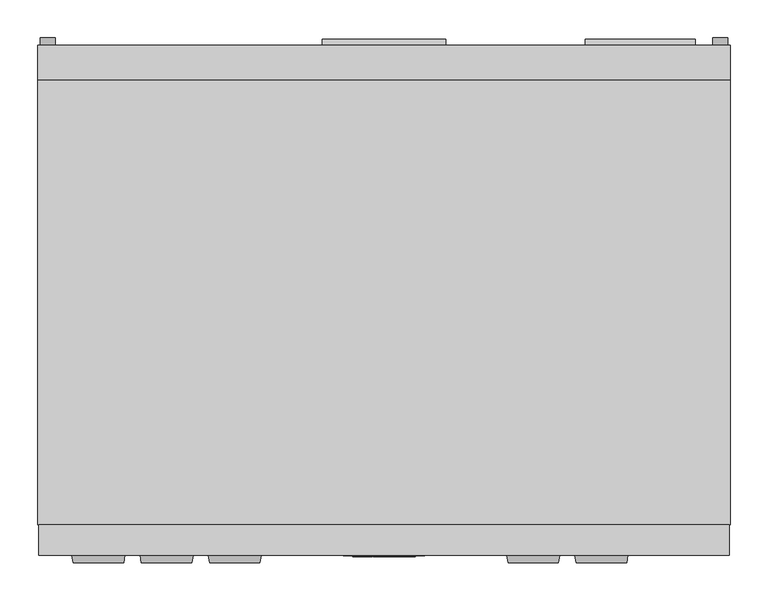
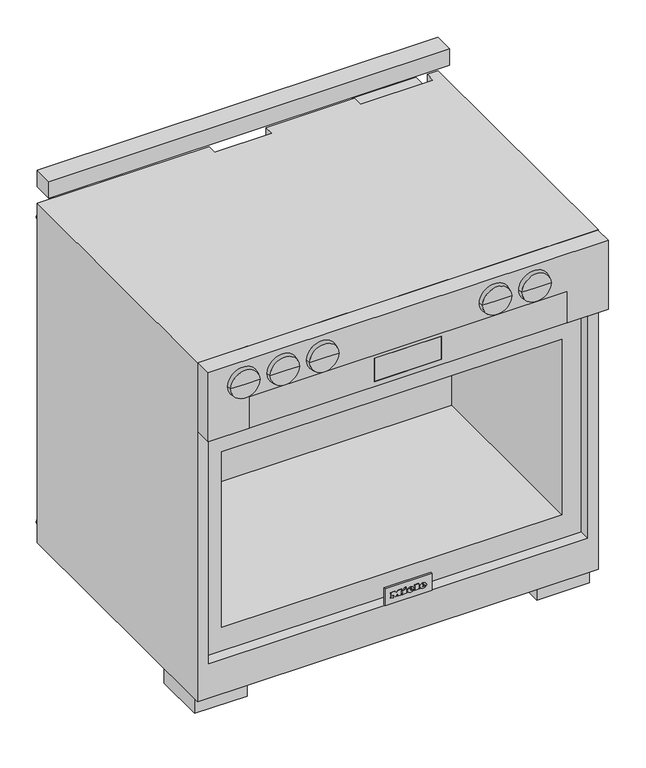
"""IFC4 building model written with IfcOpenShell, lengths in millimetres: proxy geometry, 11791570_USA_HR1934-3G_EDST-CLST : 25193481_USA_11791570_HR1934-3G_EDST-CLST."""

from ifc_helpers import new_model, si_unit, point, frame, frame_2d, origin, origin_with_axes, place, context, project, spatial, polyline, circle_curve, ellipse_curve, trimmed, segment, composite_curve, outline, extrude, faceted_brep, source, transform, mapped, element, save
from ifc_brep_helpers import plane_surface, cylinder_surface, revolved_surface, extruded_surface, advanced_brep


def specialty_equipment_81cbe028(model_context):
    return source(origin(), model_context, "Body", "SolidModel", [
        advanced_brep(
        [(253.7632698, -683.0, 813.0), (320.2367302, -683.0, 813.0), (287.0, -683.0, 813.0), (252.0, -673.0, 813.0), (322.0, -673.0, 813.0), (287.0, -673.0, 813.0)],
        [
            (0, 1, circle_curve(frame((287.0, -683.0, 813.0), z_axis=(0.0, -1.0, 0.0), x_axis=(1.0, 0.0, 0.0)), 33.2367302)),
            (1, 2),
            (2, 0),
            (1, 0, circle_curve(frame((287.0, -683.0, 813.0), z_axis=(0.0, -1.0, 0.0), x_axis=(1.0, 0.0, 0.0)), 33.2367302)),
            (3, 4, circle_curve(frame((287.0, -673.0, 813.0), z_axis=(0.0, -1.0, 0.0), x_axis=(1.0, 0.0, 0.0)), 35.0)),
            (4, 1),
            (0, 3),
            (4, 3, circle_curve(frame((287.0, -673.0, 813.0), z_axis=(0.0, -1.0, 0.0), x_axis=(1.0, 0.0, 0.0)), 35.0)),
            (5, 4),
            (3, 5),
        ],
        [
            plane_surface(frame((287.0, -683.0, 813.0), z_axis=(0.0, -1.0, 0.0), x_axis=(1.0, 0.0, 0.0))),
            revolved_surface(polyline([(320.2367302, -683.0, 813.0), (322.0, -673.0, 813.0)]), (287.0, 751.3738435, 813.0), (0.0, 1.0, 0.0)),
            plane_surface(frame((287.0, -673.0, 813.0), z_axis=(0.0, 1.0, 0.0), x_axis=(1.0, 0.0, 0.0))),
        ],
        [
            (0, [[1, 2, 3]]),
            (0, [[4, -3, -2]]),
            (1, [[5, 6, -1, 7]]),
            (1, [[8, -7, -4, -6]]),
            (2, [[9, -5, 10]]),
            (2, [[-10, -8, -9]]),
        ],
    ),
        advanced_brep(
        [(163.7632698, -683.0, 813.0), (230.2367302, -683.0, 813.0), (197.0, -683.0, 813.0), (162.0, -673.0, 813.0), (232.0, -673.0, 813.0), (197.0, -673.0, 813.0)],
        [
            (0, 1, circle_curve(frame((197.0, -683.0, 813.0), z_axis=(0.0, -1.0, 0.0), x_axis=(1.0, 0.0, 0.0)), 33.2367302)),
            (1, 2),
            (2, 0),
            (1, 0, circle_curve(frame((197.0, -683.0, 813.0), z_axis=(0.0, -1.0, 0.0), x_axis=(1.0, 0.0, 0.0)), 33.2367302)),
            (3, 4, circle_curve(frame((197.0, -673.0, 813.0), z_axis=(0.0, -1.0, 0.0), x_axis=(1.0, 0.0, 0.0)), 35.0)),
            (4, 1),
            (0, 3),
            (4, 3, circle_curve(frame((197.0, -673.0, 813.0), z_axis=(0.0, -1.0, 0.0), x_axis=(1.0, 0.0, 0.0)), 35.0)),
            (5, 4),
            (3, 5),
        ],
        [
            plane_surface(frame((197.0, -683.0, 813.0), z_axis=(0.0, -1.0, 0.0), x_axis=(1.0, 0.0, 0.0))),
            revolved_surface(polyline([(230.2367302, -683.0, 813.0), (232.0, -673.0, 813.0)]), (197.0, 751.3738435, 813.0), (0.0, 1.0, 0.0)),
            plane_surface(frame((197.0, -673.0, 813.0), z_axis=(0.0, 1.0, 0.0), x_axis=(1.0, 0.0, 0.0))),
        ],
        [
            (0, [[1, 2, 3]]),
            (0, [[4, -3, -2]]),
            (1, [[5, 6, -1, 7]]),
            (1, [[8, -7, -4, -6]]),
            (2, [[9, -5, 10]]),
            (2, [[-10, -8, -9]]),
        ],
    ),
        advanced_brep(
        [(-320.2367302, -683.0, 813.0), (-253.7632698, -683.0, 813.0), (-287.0, -683.0, 813.0), (-322.0, -673.0, 813.0), (-252.0, -673.0, 813.0), (-287.0, -673.0, 813.0)],
        [
            (0, 1, circle_curve(frame((-287.0, -683.0, 813.0), z_axis=(0.0, -1.0, 0.0), x_axis=(1.0, 0.0, 0.0)), 33.2367302)),
            (1, 2),
            (2, 0),
            (1, 0, circle_curve(frame((-287.0, -683.0, 813.0), z_axis=(0.0, -1.0, 0.0), x_axis=(1.0, 0.0, 0.0)), 33.2367302)),
            (3, 4, circle_curve(frame((-287.0, -673.0, 813.0), z_axis=(0.0, -1.0, 0.0), x_axis=(1.0, 0.0, 0.0)), 35.0)),
            (4, 1),
            (0, 3),
            (4, 3, circle_curve(frame((-287.0, -673.0, 813.0), z_axis=(0.0, -1.0, 0.0), x_axis=(1.0, 0.0, 0.0)), 35.0)),
            (5, 4),
            (3, 5),
        ],
        [
            plane_surface(frame((-287.0, -683.0, 813.0), z_axis=(0.0, -1.0, 0.0), x_axis=(1.0, 0.0, 0.0))),
            revolved_surface(polyline([(-253.7632698, -683.0, 813.0), (-252.0, -673.0, 813.0)]), (-287.0, 751.3738435, 813.0), (0.0, 1.0, 0.0)),
            plane_surface(frame((-287.0, -673.0, 813.0), z_axis=(0.0, 1.0, 0.0), x_axis=(1.0, 0.0, 0.0))),
        ],
        [
            (0, [[1, 2, 3]]),
            (0, [[4, -3, -2]]),
            (1, [[5, 6, -1, 7]]),
            (1, [[8, -7, -4, -6]]),
            (2, [[9, -5, 10]]),
            (2, [[-10, -8, -9]]),
        ],
    ),
        advanced_brep(
        [(-410.2367302, -683.0, 813.0), (-343.7632698, -683.0, 813.0), (-377.0, -683.0, 813.0), (-412.0, -673.0, 813.0), (-342.0, -673.0, 813.0), (-377.0, -673.0, 813.0)],
        [
            (0, 1, circle_curve(frame((-377.0, -683.0, 813.0), z_axis=(0.0, -1.0, 0.0), x_axis=(1.0, 0.0, 0.0)), 33.2367302)),
            (1, 2),
            (2, 0),
            (1, 0, circle_curve(frame((-377.0, -683.0, 813.0), z_axis=(0.0, -1.0, 0.0), x_axis=(1.0, 0.0, 0.0)), 33.2367302)),
            (3, 4, circle_curve(frame((-377.0, -673.0, 813.0), z_axis=(0.0, -1.0, 0.0), x_axis=(1.0, 0.0, 0.0)), 35.0)),
            (4, 1),
            (0, 3),
            (4, 3, circle_curve(frame((-377.0, -673.0, 813.0), z_axis=(0.0, -1.0, 0.0), x_axis=(1.0, 0.0, 0.0)), 35.0)),
            (5, 4),
            (3, 5),
        ],
        [
            plane_surface(frame((-377.0, -683.0, 813.0), z_axis=(0.0, -1.0, 0.0), x_axis=(1.0, 0.0, 0.0))),
            revolved_surface(polyline([(-343.7632698, -683.0, 813.0), (-342.0, -673.0, 813.0)]), (-377.0, 751.3738435, 813.0), (0.0, 1.0, 0.0)),
            plane_surface(frame((-377.0, -673.0, 813.0), z_axis=(0.0, 1.0, 0.0), x_axis=(1.0, 0.0, 0.0))),
        ],
        [
            (0, [[1, 2, 3]]),
            (0, [[4, -3, -2]]),
            (1, [[5, 6, -1, 7]]),
            (1, [[8, -7, -4, -6]]),
            (2, [[9, -5, 10]]),
            (2, [[-10, -8, -9]]),
        ],
    ),
        advanced_brep(
        [(-230.2367302, -683.0, 813.0), (-163.7632698, -683.0, 813.0), (-197.0, -683.0, 813.0), (-232.0, -673.0, 813.0), (-162.0, -673.0, 813.0), (-197.0, -673.0, 813.0)],
        [
            (0, 1, circle_curve(frame((-197.0, -683.0, 813.0), z_axis=(0.0, -1.0, 0.0), x_axis=(1.0, 0.0, 0.0)), 33.2367302)),
            (1, 2),
            (2, 0),
            (1, 0, circle_curve(frame((-197.0, -683.0, 813.0), z_axis=(0.0, -1.0, 0.0), x_axis=(1.0, 0.0, 0.0)), 33.2367302)),
            (3, 4, circle_curve(frame((-197.0, -673.0, 813.0), z_axis=(0.0, -1.0, 0.0), x_axis=(1.0, 0.0, 0.0)), 35.0)),
            (4, 1),
            (0, 3),
            (4, 3, circle_curve(frame((-197.0, -673.0, 813.0), z_axis=(0.0, -1.0, 0.0), x_axis=(1.0, 0.0, 0.0)), 35.0)),
            (5, 4),
            (3, 5),
        ],
        [
            plane_surface(frame((-197.0, -683.0, 813.0), z_axis=(0.0, -1.0, 0.0), x_axis=(1.0, 0.0, 0.0))),
            revolved_surface(polyline([(-163.7632698, -683.0, 813.0), (-162.0, -673.0, 813.0)]), (-197.0, 751.3738435, 813.0), (0.0, 1.0, 0.0)),
            plane_surface(frame((-197.0, -673.0, 813.0), z_axis=(0.0, 1.0, 0.0), x_axis=(1.0, 0.0, 0.0))),
        ],
        [
            (0, [[1, 2, 3]]),
            (0, [[4, -3, -2]]),
            (1, [[5, 6, -1, 7]]),
            (1, [[8, -7, -4, -6]]),
            (2, [[9, -5, 10]]),
            (2, [[-10, -8, -9]]),
        ],
    ),
        faceted_brep([(456.0, -673.0, 862.0), (-456.0, -673.0, 862.0), (-456.0, -673.0, 695.0), (-363.0, -673.0, 695.0), (-363.0, -673.0, 772.0), (363.0, -673.0, 772.0), (363.0, -673.0, 695.0), (456.0, -673.0, 695.0), (456.0, -633.0, 862.0), (456.0, -633.0, 695.0), (-456.0, -633.0, 695.0), (-456.0, -633.0, 862.0), (363.0, -666.7, 695.0), (-363.0, -666.7, 695.0), (363.0, -666.7, 772.0), (-363.0, -666.7, 772.0)], [[[0, 1, 2, 3, 4, 5, 6, 7]], [[8, 9, 10, 11]], [[0, 7, 9, 8]], [[10, 9, 7, 6, 12, 13, 3, 2]], [[2, 1, 11, 10]], [[1, 0, 8, 11]], [[14, 15, 13, 12]], [[14, 12, 6, 5]], [[13, 15, 4, 3]], [[15, 14, 5, 4]]]),
        extrude(outline(polyline([(772.0, 363.0), (772.0, -363.0), (695.0, -363.0), (695.0, 363.0), (772.0, 363.0)]), holes=[polyline([(763.0, 76.5), (707.0, 76.5), (707.0, -76.5), (763.0, -76.5), (763.0, 76.5)])]), frame((0.0, -671.7, 0.0), z_axis=(0.0, 1.0, 0.0), x_axis=(0.0, 0.0, 1.0)), (0.0, 0.0, 1.0), 5.0),
        extrude(outline(polyline([(76.5, -671.7), (-76.5, -671.7), (-76.5, -670.7), (76.5, -670.7), (76.5, -671.7)])), frame((0.0, 0.0, 707.0), z_axis=(0.0, 0.0, 1.0), x_axis=(1.0, 0.0, 0.0)), (0.0, 0.0, 1.0), 56.0),
        extrude(outline(polyline([(-330.0, -489.0), (-330.0, -609.0), (-450.0, -609.0), (-450.0, -489.0), (-330.0, -489.0)])), origin_with_axes(), (0.0, 0.0, 1.0), 45.0),
        extrude(outline(polyline([(450.0, -489.0), (450.0, -609.0), (330.0, -609.0), (330.0, -489.0), (450.0, -489.0)])), origin_with_axes(), (0.0, 0.0, 1.0), 45.0),
        extrude(outline(composite_curve([segment(trimmed(circle_curve(frame_2d((-152.0, 39.6862697)), 39.6862697), [point((-112.6710759, 45.0))], [point((-191.3289241, 45.0))], False, "CARTESIAN"), True, "CONTINUOUS"), segment(polyline([(-191.3289241, 45.0), (-112.6710759, 45.0)]), True, "CONTINUOUS")], self_intersect=False)), frame((-310.0, 0.0, 0.0), z_axis=(1.0, 0.0, 0.0), x_axis=(0.0, 1.0, 0.0)), (0.0, 0.0, 1.0), 28.0),
        faceted_brep([(-457.0, 0.0, 862.0), (-457.0, -633.0, 862.0), (457.0, -633.0, 862.0), (457.0, 0.0, 862.0), (432.0, 0.0, 862.0), (432.0, -23.0, 862.0), (266.0, -23.0, 862.0), (266.0, 0.0, 862.0), (65.0, 0.0, 862.0), (65.0, -23.0, 862.0), (-66.0, -23.0, 862.0), (-66.0, 0.0, 862.0), (457.0, 0.0, 45.0), (457.0, -633.0, 45.0), (-457.0, -633.0, 45.0), (-457.0, 0.0, 45.0), (-432.0, 0.0, 45.0), (-432.0, -75.0, 45.0), (432.0, -75.0, 45.0), (432.0, 0.0, 45.0), (266.0, 0.0, 132.0), (65.0, 0.0, 132.0), (-66.0, 0.0, 132.0), (-270.0, 0.0, 132.0), (-270.0, 0.0, 784.0), (-411.0, 0.0, 784.0), (-411.0, 0.0, 132.0), (-432.0, 0.0, 132.0), (432.0, -633.0, 695.0), (432.0, -633.0, 128.0), (-432.0, -633.0, 128.0), (-432.0, -633.0, 695.0), (432.0, -608.0, 695.0), (-432.0, -608.0, 695.0), (-432.0, -608.0, 128.0), (432.0, -608.0, 128.0), (388.0, -608.0, 608.0), (388.0, -608.0, 185.0), (-388.0, -608.0, 185.0), (-388.0, -608.0, 608.0), (388.0, -173.0, 608.0), (-388.0, -173.0, 608.0), (-388.0, -173.0, 185.0), (388.0, -173.0, 185.0), (432.0, -23.0, 132.0), (266.0, -23.0, 132.0), (65.0, -23.0, 132.0), (-66.0, -23.0, 132.0), (432.0, -75.0, 132.0), (-411.0, -69.0, 784.0), (-270.0, -69.0, 784.0), (-270.0, -69.0, 132.0), (-411.0, -69.0, 132.0), (-432.0, -75.0, 132.0)], [[[0, 1, 2, 3, 4, 5, 6, 7, 8, 9, 10, 11]], [[12, 13, 14, 15, 16, 17, 18, 19]], [[8, 7, 20, 21]], [[3, 12, 19, 4]], [[15, 0, 11, 22, 23, 24, 25, 26, 27, 16]], [[1, 0, 15, 14]], [[2, 1, 14, 13], [28, 29, 30, 31]], [[3, 2, 13, 12]], [[32, 33, 34, 35], [36, 37, 38, 39]], [[32, 35, 29, 28]], [[35, 34, 30, 29]], [[34, 33, 31, 30]], [[33, 32, 28, 31]], [[40, 41, 42, 43]], [[40, 43, 37, 36]], [[43, 42, 38, 37]], [[42, 41, 39, 38]], [[41, 40, 36, 39]], [[6, 5, 44, 45]], [[10, 9, 46, 47]], [[9, 8, 21, 46]], [[11, 10, 47, 22]], [[5, 4, 19, 18, 48, 44]], [[7, 6, 45, 20]], [[49, 50, 51, 52]], [[50, 49, 25, 24]], [[50, 24, 23, 51]], [[25, 49, 52, 26]], [[53, 48, 18, 17]], [[27, 53, 17, 16]], [[48, 53, 27, 26, 52, 51, 23, 22, 47, 46, 21, 20, 45, 44]]]),
        extrude(outline(composite_curve([segment(trimmed(circle_curve(frame_2d((748.0, -299.0)), 7.5), [point((748.0, -291.5))], [point((748.0, -306.5))], False, "CARTESIAN"), True, "CONTINUOUS"), segment(trimmed(circle_curve(frame_2d((748.0, -299.0)), 7.5), [point((748.0, -306.5))], [point((748.0, -291.5))], False, "CARTESIAN"), True, "CONTINUOUS")], self_intersect=False)), frame((0.0, -66.0, 0.0), z_axis=(0.0, 1.0, 0.0), x_axis=(0.0, 0.0, 1.0)), (0.0, 0.0, 1.0), 30.0),
        extrude(outline(polyline([(743.0, -288.4829639), (753.0509015, -288.4829639), (753.0509015, -289.7409127), (748.1386151, -289.7409127), (753.0475587, -294.8904554), (753.0475587, -296.6455728), (748.9164775, -292.3179994), (743.0, -296.8019347), (743.0, -295.2701694), (748.0664133, -291.4304743), (746.4465471, -289.7392234), (743.0, -289.7392234), (743.0, -288.4829639)])), frame((0.0, -36.0, 0.0), z_axis=(0.0, 1.0, 0.0), x_axis=(0.0, 0.0, 1.0)), (0.0, 0.0, 1.0), 1.0),
        extrude(outline(polyline([(742.9900117, -299.5376107), (753.0405487, -296.8032463), (753.0405487, -298.1010309), (744.3952189, -300.1941056), (753.0411296, -302.6946617), (753.0411296, -304.5615338), (744.4117226, -307.0845612), (753.0419182, -309.165026), (753.0419182, -310.4626989), (742.9984871, -307.7244126), (742.9984871, -306.3735976), (751.8308623, -303.6286268), (742.9900117, -301.0716905), (742.9900117, -299.5376107)])), frame((0.0, -36.0, 0.0), z_axis=(0.0, 1.0, 0.0), x_axis=(0.0, 0.0, 1.0)), (0.0, 0.0, 1.0), 1.0),
        extrude(outline(composite_curve([segment(trimmed(circle_curve(frame_2d((-362.0, -35.0)), 7.5), [point((-369.5, -35.0))], [point((-354.5, -35.0))], False, "CARTESIAN"), True, "CONTINUOUS"), segment(trimmed(circle_curve(frame_2d((-362.0, -35.0)), 7.5), [point((-354.5, -35.0))], [point((-369.5, -35.0))], False, "CARTESIAN"), True, "CONTINUOUS")], self_intersect=False)), frame((0.0, 0.0, 754.0), z_axis=(0.0, 0.0, 1.0), x_axis=(1.0, 0.0, 0.0)), (0.0, 0.0, 1.0), 30.0),
        extrude(outline(composite_curve([segment(trimmed(circle_curve(frame_2d((239.0, -44.0)), 7.5), [point((239.0, -51.5))], [point((239.0, -36.5))], False, "CARTESIAN"), True, "CONTINUOUS"), segment(trimmed(circle_curve(frame_2d((239.0, -44.0)), 7.5), [point((239.0, -36.5))], [point((239.0, -51.5))], False, "CARTESIAN"), True, "CONTINUOUS")], self_intersect=False)), frame((0.0, 0.0, 102.0), z_axis=(0.0, 0.0, 1.0), x_axis=(1.0, 0.0, 0.0)), (0.0, 0.0, 1.0), 30.0),
        extrude(outline(polyline([(246.4261097, -48.2846028), (239.1553153, -48.2846028), (239.1553153, -47.0259878), (245.1324687, -47.0259878), (245.1324687, -44.0398896), (239.4699511, -44.0398896), (239.4699511, -42.7868997), (245.1324687, -42.7868997), (245.1324687, -39.484481), (239.0234692, -39.484481), (239.0234692, -38.223126), (246.4261097, -38.223126), (246.4261097, -48.2846028)])), frame((0.0, 0.0, 101.0), z_axis=(0.0, 0.0, 1.0), x_axis=(1.0, 0.0, 0.0)), (0.0, 0.0, 1.0), 1.0),
        extrude(outline(polyline([(237.0939455, -48.2781045), (230.9083542, -48.2781045), (230.9083542, -47.0259878), (235.9083542, -47.0259878), (235.9083542, -38.223126), (237.0939455, -38.223126), (237.0939455, -48.2781045)])), frame((0.0, 0.0, 101.0), z_axis=(0.0, 0.0, 1.0), x_axis=(1.0, 0.0, 0.0)), (0.0, 0.0, 1.0), 1.0),
        extrude(outline(composite_curve([segment(polyline([(-359.0941465, -34.8216074), (-355.0193946, -34.8216074), (-355.0193946, -36.0727848), (-357.8300756, -36.0727848), (-357.8300756, -37.8953779), (-356.5547934, -38.5734575), (-354.8554891, -38.8730907)]), True, "CONTINUOUS"), segment(trimmed(circle_curve(frame_2d((-354.7763582, -35.1835188)), 3.6904203), [point((-354.8554891, -38.8730907))], [point((-351.0917956, -34.975672))], True, "CARTESIAN"), True, "CONTINUOUS"), segment(trimmed(circle_curve(frame_2d((-355.2742118, -35.2116028)), 4.1890654), [point((-351.0917956, -34.975672))], [point((-354.8924604, -31.0399683))], True, "CARTESIAN"), True, "CONTINUOUS"), segment(trimmed(circle_curve(frame_2d((-355.1434541, -33.7827322)), 2.7542243), [point((-354.8924604, -31.0399683))], [point((-357.2311401, -31.9862582))], True, "CARTESIAN"), True, "CONTINUOUS"), segment(polyline([(-357.2311401, -31.9862582), (-357.7913432, -33.1348449), (-358.9545959, -32.808521), (-358.2222817, -31.1459412)]), True, "CONTINUOUS"), segment(trimmed(circle_curve(frame_2d((-355.0056573, -34.3038983)), 4.5077007), [point((-358.2222817, -31.1459412))], [point((-354.8478593, -29.7989604))], False, "CARTESIAN"), True, "CONTINUOUS"), segment(trimmed(circle_curve(frame_2d((-355.0297107, -35.0029797)), 5.2071956), [point((-354.8478593, -29.7989604))], [point((-349.8225151, -35.0029797))], False, "CARTESIAN"), True, "CONTINUOUS"), segment(trimmed(circle_curve(frame_2d((-355.0187023, -34.9634409)), 5.1963376), [point((-349.8225151, -35.0029797))], [point((-355.0187023, -40.1597785))], False, "CARTESIAN"), True, "CONTINUOUS"), segment(polyline([(-355.0187023, -40.1597785), (-357.0821579, -39.7823822), (-359.0941465, -38.5734575), (-359.0941465, -34.8216074)]), True, "CONTINUOUS")], self_intersect=False)), frame((0.0, 0.0, 753.0), z_axis=(0.0, 0.0, 1.0), x_axis=(1.0, 0.0, 0.0)), (0.0, 0.0, 1.0), 1.0),
        extrude(outline(composite_curve([segment(polyline([(-369.4581842, -37.6489066), (-368.202206, -37.8031213), (-369.1593436, -39.5606642)]), True, "CONTINUOUS"), segment(trimmed(circle_curve(frame_2d((-371.3057471, -36.6354063)), 3.6282478), [point((-369.1593436, -39.5606642))], [point((-372.8962663, -39.8964538))], False, "CARTESIAN"), True, "CONTINUOUS"), segment(trimmed(circle_curve(frame_2d((-371.7731504, -37.593725)), 2.5620205), [point((-372.8962663, -39.8964538))], [point((-374.32893, -37.7724425))], False, "CARTESIAN"), True, "CONTINUOUS"), segment(trimmed(circle_curve(frame_2d((-372.617737, -37.6527843)), 1.7153715), [point((-374.32893, -37.7724425))], [point((-373.147816, -36.021369))], False, "CARTESIAN"), True, "CONTINUOUS"), segment(polyline([(-373.147816, -36.021369), (-371.3069947, -35.4232499), (-369.987673, -33.9770867)]), True, "CONTINUOUS"), segment(trimmed(circle_curve(frame_2d((-371.1408399, -36.351197)), 2.6393548), [point((-369.987673, -33.9770867))], [point((-372.2940069, -33.9770867))], True, "CARTESIAN"), True, "CONTINUOUS"), segment(polyline([(-372.2940069, -33.9770867), (-372.7553884, -34.6611129), (-374.0084996, -34.5072502), (-373.5756304, -33.3795875)]), True, "CONTINUOUS"), segment(trimmed(circle_curve(frame_2d((-370.9527143, -36.6576461)), 4.1982564), [point((-373.5756304, -33.3795875))], [point((-371.0505395, -32.4605295))], False, "CARTESIAN"), True, "CONTINUOUS"), segment(trimmed(circle_curve(frame_2d((-370.9805679, -35.4626064)), 3.0028922), [point((-371.0505395, -32.4605295))], [point((-368.5718203, -33.6694816))], False, "CARTESIAN"), True, "CONTINUOUS"), segment(trimmed(circle_curve(frame_2d((-370.4380028, -34.5301363)), 2.0550823), [point((-368.5718203, -33.6694816))], [point((-369.4341096, -36.323335))], False, "CARTESIAN"), True, "CONTINUOUS"), segment(polyline([(-369.4341096, -36.323335), (-371.3494535, -36.9828408), (-373.0597255, -37.9076387), (-372.6768706, -38.6156702)]), True, "CONTINUOUS"), segment(trimmed(circle_curve(frame_2d((-371.3695779, -35.6018954)), 3.2850956), [point((-372.6768706, -38.6156702))], [point((-370.0622852, -38.6156702))], True, "CARTESIAN"), True, "CONTINUOUS"), segment(polyline([(-370.0622852, -38.6156702), (-369.4581842, -37.6489066)]), True, "CONTINUOUS")], self_intersect=False)), frame((0.0, 0.0, 753.0), z_axis=(0.0, 0.0, 1.0), x_axis=(1.0, 0.0, 0.0)), (0.0, 0.0, 1.0), 1.0),
        extrude(outline(composite_curve([segment(polyline([(-366.0009008, -40.0), (-367.2635363, -40.0), (-367.0191787, -38.9415709), (-366.8778726, -34.1117735)]), True, "CONTINUOUS"), segment(trimmed(circle_curve(frame_2d((-365.387549, -34.1553762)), 1.4909613), [point((-366.8778726, -34.1117735))], [point((-365.6381402, -32.6856246))], False, "CARTESIAN"), True, "CONTINUOUS"), segment(trimmed(circle_curve(frame_2d((-364.1175682, -37.7832301)), 5.3195602), [point((-365.6381402, -32.6856246))], [point((-362.440667, -32.7348914))], False, "CARTESIAN"), True, "CONTINUOUS"), segment(polyline([(-362.440667, -32.7348914), (-361.3643767, -33.4338425), (-360.8177226, -34.6616478), (-362.0710839, -34.8155412), (-362.6628147, -33.9704619)]), True, "CONTINUOUS"), segment(trimmed(circle_curve(frame_2d((-363.889909, -36.6278559)), 2.9270297), [point((-362.6628147, -33.9704619))], [point((-365.335883, -34.0829271))], True, "CARTESIAN"), True, "CONTINUOUS"), segment(polyline([(-365.335883, -34.0829271), (-365.6819155, -35.289686), (-362.4250607, -35.9227545)]), True, "CONTINUOUS"), segment(trimmed(circle_curve(frame_2d((-362.8373847, -38.0439776)), 2.1609254), [point((-362.4250607, -35.9227545))], [point((-361.2872437, -39.5495212))], False, "CARTESIAN"), True, "CONTINUOUS"), segment(trimmed(circle_curve(frame_2d((-363.2230106, -36.6941434)), 3.4496922), [point((-361.2872437, -39.5495212))], [point((-364.4810512, -39.9062626))], False, "CARTESIAN"), True, "CONTINUOUS"), segment(polyline([(-364.4810512, -39.9062626), (-365.6943945, -39.0566705), (-366.0009008, -40.0)]), True, "CONTINUOUS")], self_intersect=False), holes=[composite_curve([segment(polyline([(-365.6808047, -36.7241112), (-365.4778117, -37.8753414), (-364.6808418, -38.5929363), (-363.3846505, -38.8921857)]), True, "CONTINUOUS"), segment(trimmed(circle_curve(frame_2d((-363.1641539, -37.9371101)), 0.980198), [point((-363.3846505, -38.8921857))], [point((-362.5826105, -37.148063))], True, "CARTESIAN"), True, "CONTINUOUS"), segment(polyline([(-362.5826105, -37.148063), (-363.683896, -36.9339948), (-365.6808047, -36.7241112)]), True, "CONTINUOUS")], self_intersect=False)]), frame((0.0, 0.0, 753.0), z_axis=(0.0, 0.0, 1.0), x_axis=(1.0, 0.0, 0.0)), (0.0, 0.0, 1.0), 1.0),
        extrude(outline(composite_curve([segment(trimmed(circle_curve(frame_2d((-152.0, 39.6862697)), 39.6862697), [point((-112.6710759, 45.0))], [point((-191.3289241, 45.0))], False, "CARTESIAN"), True, "CONTINUOUS"), segment(polyline([(-191.3289241, 45.0), (-112.6710759, 45.0)]), True, "CONTINUOUS")], self_intersect=False)), frame((282.0, 0.0, 0.0), z_axis=(1.0, 0.0, 0.0), x_axis=(0.0, 1.0, 0.0)), (0.0, 0.0, 1.0), 28.0),
        extrude(outline(polyline([(-81.5, 8.0), (81.5, 8.0), (81.5, 0.0), (-81.5, 0.0), (-81.5, 8.0)])), frame((0.0, 0.0, 559.0), z_axis=(0.0, 0.0, 1.0), x_axis=(1.0, 0.0, 0.0)), (0.0, 0.0, 1.0), 237.0),
        extrude(outline(polyline([(266.0, 8.0), (411.0, 8.0), (411.0, -23.0), (266.0, -23.0), (266.0, 8.0)])), frame((0.0, 0.0, 742.0), z_axis=(0.0, 0.0, 1.0), x_axis=(1.0, 0.0, 0.0)), (0.0, 0.0, 1.0), 115.0),
        extrude(outline(polyline([(284.0, -23.0), (405.0, -23.0), (405.0, -53.0), (284.0, -53.0), (284.0, -23.0)])), frame((0.0, 0.0, 117.0), z_axis=(0.0, 0.0, 1.0), x_axis=(1.0, 0.0, 0.0)), (0.0, 0.0, 1.0), 15.0),
        extrude(outline(polyline([(-258.0, 0.0), (170.0, 0.0), (170.0, -39.0), (-258.0, -39.0), (-258.0, 0.0)])), frame((0.0, 0.0, 117.0), z_axis=(0.0, 0.0, 1.0), x_axis=(1.0, 0.0, 0.0)), (0.0, 0.0, 1.0), 15.0),
        extrude(outline(composite_curve([segment(trimmed(circle_curve(frame_2d((822.0, 444.0)), 10.0), [point((822.0, 454.0))], [point((822.0, 434.0))], False, "CARTESIAN"), True, "CONTINUOUS"), segment(trimmed(circle_curve(frame_2d((822.0, 444.0)), 10.0), [point((822.0, 434.0))], [point((822.0, 454.0))], False, "CARTESIAN"), True, "CONTINUOUS")], self_intersect=False)), frame((0.0, 0.0, 0.0), z_axis=(0.0, 1.0, 0.0), x_axis=(0.0, 0.0, 1.0)), (0.0, 0.0, 1.0), 10.0),
        extrude(outline(composite_curve([segment(trimmed(circle_curve(frame_2d((87.0, 444.0)), 10.0), [point((87.0, 454.0))], [point((87.0, 434.0))], False, "CARTESIAN"), True, "CONTINUOUS"), segment(trimmed(circle_curve(frame_2d((87.0, 444.0)), 10.0), [point((87.0, 434.0))], [point((87.0, 454.0))], False, "CARTESIAN"), True, "CONTINUOUS")], self_intersect=False)), frame((0.0, 0.0, 0.0), z_axis=(0.0, 1.0, 0.0), x_axis=(0.0, 0.0, 1.0)), (0.0, 0.0, 1.0), 10.0),
        extrude(outline(composite_curve([segment(trimmed(circle_curve(frame_2d((822.0, -444.0)), 10.0), [point((822.0, -434.0))], [point((822.0, -454.0))], False, "CARTESIAN"), True, "CONTINUOUS"), segment(trimmed(circle_curve(frame_2d((822.0, -444.0)), 10.0), [point((822.0, -454.0))], [point((822.0, -434.0))], False, "CARTESIAN"), True, "CONTINUOUS")], self_intersect=False)), frame((0.0, 0.0, 0.0), z_axis=(0.0, 1.0, 0.0), x_axis=(0.0, 0.0, 1.0)), (0.0, 0.0, 1.0), 10.0),
        extrude(outline(composite_curve([segment(trimmed(circle_curve(frame_2d((87.0, -444.0)), 10.0), [point((87.0, -434.0))], [point((87.0, -454.0))], False, "CARTESIAN"), True, "CONTINUOUS"), segment(trimmed(circle_curve(frame_2d((87.0, -444.0)), 10.0), [point((87.0, -454.0))], [point((87.0, -434.0))], False, "CARTESIAN"), True, "CONTINUOUS")], self_intersect=False)), frame((0.0, 0.0, 0.0), z_axis=(0.0, 1.0, 0.0), x_axis=(0.0, 0.0, 1.0)), (0.0, 0.0, 1.0), 10.0),
        advanced_brep(
        [(32.17, -675.0, 177.1995), (32.17, -675.0, 178.563), (41.2015, -675.0, 178.563), (25.4875, -675.0, 178.563), (29.2, -675.0, 174.0), (40.972, -675.0, 177.1995), (36.895, -675.0, 177.1995), (33.682, -675.0, 175.6875), (32.17, -675.0, 180.291), (32.17, -675.0, 181.7625), (34.4785, -675.0, 181.7625), (34.4785, -675.0, 180.291), (32.17, -674.0, 177.1995), (33.682, -674.0, 175.6875), (36.895, -674.0, 177.1995), (40.972, -674.0, 177.1995), (29.2, -674.0, 174.0), (25.4875, -674.0, 178.563), (41.2015, -674.0, 178.563), (32.17, -674.0, 178.563), (32.17, -674.0, 180.291), (34.4785, -674.0, 180.291), (34.4785, -674.0, 181.7625), (32.17, -674.0, 181.7625)],
        [
            (0, 1),
            (1, 2),
            (2, 3, ellipse_curve(frame((33.3445, -675.0, 178.563), z_axis=(0.0, -1.0, 0.0), x_axis=(-1.0, 0.0, 0.0)), 7.857, 6.4935)),
            (3, 4, circle_curve(frame((30.7120736, -675.0, 179.022), z_axis=(0.0, -1.0, 0.0), x_axis=(0.0, 0.0, -1.0)), 5.2446974)),
            (4, 5, circle_curve(frame((33.1872142, -675.0, 182.586), z_axis=(0.0, -1.0, 0.0), x_axis=(0.0, 0.0, -1.0)), 9.46664)),
            (5, 6),
            (6, 7, circle_curve(frame((34.3419118, -675.0, 178.455), z_axis=(0.0, 1.0, 0.0), x_axis=(0.0, 0.0, -1.0)), 2.8450905)),
            (7, 0, circle_curve(frame((33.682, -675.0, 177.1995), z_axis=(0.0, 1.0, 0.0), x_axis=(0.0, 0.0, -1.0)), 1.512)),
            (8, 9),
            (9, 10, circle_curve(frame((33.32425, -675.0, 181.7625), z_axis=(0.0, 1.0, 0.0), x_axis=(0.0, 0.0, -1.0)), 1.15425)),
            (10, 11),
            (11, 8),
            (12, 13, circle_curve(frame((33.682, -674.0, 177.1995), z_axis=(0.0, -1.0, 0.0), x_axis=(0.0, 0.0, -1.0)), 1.512)),
            (13, 14, circle_curve(frame((34.3419118, -674.0, 178.455), z_axis=(0.0, -1.0, 0.0), x_axis=(0.0, 0.0, -1.0)), 2.8450905)),
            (14, 15),
            (15, 16, circle_curve(frame((33.1872142, -674.0, 182.586), z_axis=(0.0, 1.0, 0.0), x_axis=(0.0, 0.0, -1.0)), 9.46664)),
            (16, 17, circle_curve(frame((30.7120736, -674.0, 179.022), z_axis=(0.0, 1.0, 0.0), x_axis=(0.0, 0.0, -1.0)), 5.2446974)),
            (17, 18, ellipse_curve(frame((33.3445, -674.0, 178.563), z_axis=(0.0, 1.0, 0.0), x_axis=(-1.0, 0.0, 0.0)), 7.857, 6.4935)),
            (18, 19),
            (19, 12),
            (20, 21),
            (21, 22),
            (22, 23, circle_curve(frame((33.32425, -674.0, 181.7625), z_axis=(0.0, -1.0, 0.0), x_axis=(0.0, 0.0, -1.0)), 1.15425)),
            (23, 20),
            (0, 12),
            (19, 1),
            (18, 2),
            (5, 15),
            (14, 6),
            (17, 3),
            (13, 7),
            (16, 4),
            (8, 20),
            (23, 9),
            (22, 10),
            (21, 11),
        ],
        [
            plane_surface(frame((32.17, -675.0, 178.563), z_axis=(0.0, -1.0, 0.0), x_axis=(0.0, 0.0, 1.0))),
            plane_surface(frame((32.17, -674.0, 178.563), z_axis=(0.0, 1.0, 0.0), x_axis=(0.0, 0.0, -1.0))),
            plane_surface(frame((32.17, -675.0, 177.1995), z_axis=(1.0, 0.0, 0.0), x_axis=(0.0, 1.0, 0.0))),
            plane_surface(frame((32.17, -675.0, 178.563), z_axis=(0.0, 0.0, -1.0), x_axis=(0.0, 1.0, 0.0))),
            plane_surface(frame((40.972, -675.0, 177.1995), z_axis=(0.0, 0.0, 1.0), x_axis=(0.0, 1.0, 0.0))),
            extruded_surface(trimmed(ellipse_curve(frame((33.3445, -673.0, 178.563), z_axis=(0.0, -1.0, 0.0), x_axis=(-1.0, 0.0, 0.0)), 7.857, 6.4935), [point((41.2015, -673.0, 178.563))], [point((25.4875, -673.0, 178.563))], True, "CARTESIAN"), (0.0, -1.0, 0.0), 1.0),
            revolved_surface(polyline([(34.3419118, -674.0, 175.60990950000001), (34.3419118, -675.0, 175.60990950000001)]), (34.3419118, -674.0, 178.455), (0.0, 1.0, 0.0)),
            revolved_surface(polyline([(33.682, -674.0, 175.6875), (33.682, -675.0, 175.6875)]), (33.682, -674.0, 177.1995), (0.0, 1.0, 0.0)),
            cylinder_surface(frame((30.7120736, -674.0, 179.022), z_axis=(0.0, -1.0, 0.0), x_axis=(0.0, 0.0, -1.0)), 5.2446974),
            cylinder_surface(frame((33.1872142, -674.0, 182.586), z_axis=(0.0, -1.0, 0.0), x_axis=(0.0, 0.0, -1.0)), 9.46664),
            plane_surface(frame((32.17, -675.0, 180.291), z_axis=(1.0, 0.0, 0.0), x_axis=(0.0, 1.0, 0.0))),
            revolved_surface(polyline([(33.32425, -674.0, 180.60825), (33.32425, -675.0, 180.60825)]), (33.32425, -674.0, 181.7625), (0.0, 1.0, 0.0)),
            plane_surface(frame((34.4785, -675.0, 181.7625), z_axis=(-1.0, 0.0, 0.0), x_axis=(0.0, 1.0, 0.0))),
            plane_surface(frame((34.4785, -675.0, 180.291), z_axis=(0.0, 0.0, 1.0), x_axis=(0.0, 1.0, 0.0))),
        ],
        [
            (0, [[1, 2, 3, 4, 5, 6, 7, 8], [9, 10, 11, 12]]),
            (1, [[13, 14, 15, 16, 17, 18, 19, 20], [21, 22, 23, 24]]),
            (2, [[-1, 25, -20, 26]]),
            (3, [[-2, -26, -19, 27]]),
            (4, [[-6, 28, -15, 29]]),
            (5, [[-3, -27, -18, 30]]),
            (6, [[-7, -29, -14, 31]]),
            (7, [[-8, -31, -13, -25]]),
            (8, [[-4, -30, -17, 32]]),
            (9, [[-5, -32, -16, -28]]),
            (10, [[-9, 33, -24, 34]]),
            (11, [[-10, -34, -23, 35]]),
            (12, [[-11, -35, -22, 36]]),
            (13, [[-12, -36, -21, -33]]),
        ],
    ),
        advanced_brep(
        [(3.9955, -675.0, 177.1995), (3.9955, -675.0, 178.563), (13.027, -675.0, 178.563), (-2.687, -675.0, 178.563), (1.0255, -675.0, 174.0), (12.7975, -675.0, 177.1995), (8.7205, -675.0, 177.1995), (5.5075, -675.0, 175.6875), (3.9955, -675.0, 180.291), (3.9955, -675.0, 181.7625), (6.304, -675.0, 181.7625), (6.304, -675.0, 180.291), (3.9955, -674.0, 177.1995), (5.5075, -674.0, 175.6875), (8.7205, -674.0, 177.1995), (12.7975, -674.0, 177.1995), (1.0255, -674.0, 174.0), (-2.687, -674.0, 178.563), (13.027, -674.0, 178.563), (3.9955, -674.0, 178.563), (3.9955, -674.0, 180.291), (6.304, -674.0, 180.291), (6.304, -674.0, 181.7625), (3.9955, -674.0, 181.7625)],
        [
            (0, 1),
            (1, 2),
            (2, 3, ellipse_curve(frame((5.17, -675.0, 178.563), z_axis=(0.0, -1.0, 0.0), x_axis=(-1.0, 0.0, 0.0)), 7.857, 6.4935)),
            (3, 4, circle_curve(frame((2.5375736, -675.0, 179.022), z_axis=(0.0, -1.0, 0.0), x_axis=(0.0, 0.0, -1.0)), 5.2446974)),
            (4, 5, circle_curve(frame((5.0127142, -675.0, 182.586), z_axis=(0.0, -1.0, 0.0), x_axis=(0.0, 0.0, -1.0)), 9.46664)),
            (5, 6),
            (6, 7, circle_curve(frame((6.1674118, -675.0, 178.455), z_axis=(0.0, 1.0, 0.0), x_axis=(0.0, 0.0, -1.0)), 2.8450905)),
            (7, 0, circle_curve(frame((5.5075, -675.0, 177.1995), z_axis=(0.0, 1.0, 0.0), x_axis=(0.0, 0.0, -1.0)), 1.512)),
            (8, 9),
            (9, 10, circle_curve(frame((5.14975, -675.0, 181.7625), z_axis=(0.0, 1.0, 0.0), x_axis=(0.0, 0.0, -1.0)), 1.15425)),
            (10, 11),
            (11, 8),
            (12, 13, circle_curve(frame((5.5075, -674.0, 177.1995), z_axis=(0.0, -1.0, 0.0), x_axis=(0.0, 0.0, -1.0)), 1.512)),
            (13, 14, circle_curve(frame((6.1674118, -674.0, 178.455), z_axis=(0.0, -1.0, 0.0), x_axis=(0.0, 0.0, -1.0)), 2.8450905)),
            (14, 15),
            (15, 16, circle_curve(frame((5.0127142, -674.0, 182.586), z_axis=(0.0, 1.0, 0.0), x_axis=(0.0, 0.0, -1.0)), 9.46664)),
            (16, 17, circle_curve(frame((2.5375736, -674.0, 179.022), z_axis=(0.0, 1.0, 0.0), x_axis=(0.0, 0.0, -1.0)), 5.2446974)),
            (17, 18, ellipse_curve(frame((5.17, -674.0, 178.563), z_axis=(0.0, 1.0, 0.0), x_axis=(-1.0, 0.0, 0.0)), 7.857, 6.4935)),
            (18, 19),
            (19, 12),
            (20, 21),
            (21, 22),
            (22, 23, circle_curve(frame((5.14975, -674.0, 181.7625), z_axis=(0.0, -1.0, 0.0), x_axis=(0.0, 0.0, -1.0)), 1.15425)),
            (23, 20),
            (0, 12),
            (19, 1),
            (18, 2),
            (5, 15),
            (14, 6),
            (17, 3),
            (13, 7),
            (16, 4),
            (8, 20),
            (23, 9),
            (22, 10),
            (21, 11),
        ],
        [
            plane_surface(frame((3.9955, -675.0, 178.563), z_axis=(0.0, -1.0, 0.0), x_axis=(0.0, 0.0, 1.0))),
            plane_surface(frame((3.9955, -674.0, 178.563), z_axis=(0.0, 1.0, 0.0), x_axis=(0.0, 0.0, -1.0))),
            plane_surface(frame((3.9955, -675.0, 177.1995), z_axis=(1.0, 0.0, 0.0), x_axis=(0.0, 1.0, 0.0))),
            plane_surface(frame((3.9955, -675.0, 178.563), z_axis=(0.0, 0.0, -1.0), x_axis=(0.0, 1.0, 0.0))),
            plane_surface(frame((12.7975, -675.0, 177.1995), z_axis=(0.0, 0.0, 1.0), x_axis=(0.0, 1.0, 0.0))),
            extruded_surface(trimmed(ellipse_curve(frame((5.17, -673.0, 178.563), z_axis=(0.0, -1.0, 0.0), x_axis=(-1.0, 0.0, 0.0)), 7.857, 6.4935), [point((13.027, -673.0, 178.563))], [point((-2.687, -673.0, 178.563))], True, "CARTESIAN"), (0.0, -1.0, 0.0), 1.0),
            revolved_surface(polyline([(6.1674118, -674.0, 175.60990950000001), (6.1674118, -675.0, 175.60990950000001)]), (6.1674118, -674.0, 178.455), (0.0, 1.0, 0.0)),
            revolved_surface(polyline([(5.5075, -674.0, 175.6875), (5.5075, -675.0, 175.6875)]), (5.5075, -674.0, 177.1995), (0.0, 1.0, 0.0)),
            cylinder_surface(frame((2.5375736, -674.0, 179.022), z_axis=(0.0, -1.0, 0.0), x_axis=(0.0, 0.0, -1.0)), 5.2446974),
            cylinder_surface(frame((5.0127142, -674.0, 182.586), z_axis=(0.0, -1.0, 0.0), x_axis=(0.0, 0.0, -1.0)), 9.46664),
            plane_surface(frame((3.9955, -675.0, 180.291), z_axis=(1.0, 0.0, 0.0), x_axis=(0.0, 1.0, 0.0))),
            revolved_surface(polyline([(5.14975, -674.0, 180.60825), (5.14975, -675.0, 180.60825)]), (5.14975, -674.0, 181.7625), (0.0, 1.0, 0.0)),
            plane_surface(frame((6.304, -675.0, 181.7625), z_axis=(-1.0, 0.0, 0.0), x_axis=(0.0, 1.0, 0.0))),
            plane_surface(frame((6.304, -675.0, 180.291), z_axis=(0.0, 0.0, 1.0), x_axis=(0.0, 1.0, 0.0))),
        ],
        [
            (0, [[1, 2, 3, 4, 5, 6, 7, 8], [9, 10, 11, 12]]),
            (1, [[13, 14, 15, 16, 17, 18, 19, 20], [21, 22, 23, 24]]),
            (2, [[-1, 25, -20, 26]]),
            (3, [[-2, -26, -19, 27]]),
            (4, [[-6, 28, -15, 29]]),
            (5, [[-3, -27, -18, 30]]),
            (6, [[-7, -29, -14, 31]]),
            (7, [[-8, -31, -13, -25]]),
            (8, [[-4, -30, -17, 32]]),
            (9, [[-5, -32, -16, -28]]),
            (10, [[-9, 33, -24, 34]]),
            (11, [[-10, -34, -23, 35]]),
            (12, [[-11, -35, -22, 36]]),
            (13, [[-12, -36, -21, -33]]),
        ],
    ),
        extrude(outline(polyline([(186.7035, -10.76), (184.5165, -9.734), (186.6495, -5.1575), (188.8365, -6.17), (186.7035, -10.76)])), frame((0.0, -675.0, 0.0), z_axis=(0.0, 1.0, 0.0), x_axis=(0.0, 0.0, 1.0)), (0.0, 0.0, 1.0), 1.0),
        extrude(outline(polyline([(184.2195, -14.0945), (181.803, -14.0945), (181.803, -12.488), (176.268, -12.488), (176.268, -14.0945), (174.0, -14.0945), (174.0, -3.443), (176.268, -3.443), (176.268, -5.009), (184.2195, -5.009), (184.2195, -14.0945)])), frame((0.0, -675.0, 0.0), z_axis=(0.0, 1.0, 0.0), x_axis=(0.0, 0.0, 1.0)), (0.0, 0.0, 1.0), 1.0),
        extrude(outline(polyline([(185.2995, 13.783), (185.2995, 15.403), (176.268, 15.403), (176.268, 13.783), (174.0, 13.783), (174.0, 24.7315), (176.268, 24.7315), (176.268, 23.071), (187.5, 23.071), (187.5, 13.783), (185.2995, 13.783)])), frame((0.0, -675.0, 0.0), z_axis=(0.0, 1.0, 0.0), x_axis=(0.0, 0.0, 1.0)), (0.0, 0.0, 1.0), 1.0),
        extrude(outline(polyline([(185.2995, -41.0), (185.2995, -39.3665), (176.268, -39.3665), (176.268, -41.0), (174.0, -41.0), (174.0, -35.06), (176.268, -35.06), (176.268, -36.68), (181.9756247, -36.68), (174.0, -30.6455), (182.2527223, -24.584), (176.268, -24.584), (176.268, -26.2445), (174.0, -26.2445), (174.0, -15.4715), (176.268, -15.4715), (176.268, -17.186), (185.2995, -17.186), (185.2995, -15.4715), (187.5, -15.4715), (187.5, -23.693), (182.4375, -27.635), (187.5, -31.5905), (187.5, -41.0), (185.2995, -41.0)])), frame((0.0, -675.0, 0.0), z_axis=(0.0, 1.0, 0.0), x_axis=(0.0, 0.0, 1.0)), (0.0, 0.0, 1.0), 1.0),
        extrude(outline(polyline([(457.0, 0.0), (457.0, -45.0), (-457.0, -45.0), (-457.0, 0.0), (457.0, 0.0)])), frame((0.0, 0.0, 902.0), z_axis=(0.0, 0.0, 1.0), x_axis=(1.0, 0.0, 0.0)), (0.0, 0.0, 1.0), 40.0),
        extrude(outline(composite_curve([segment(polyline([(-670.0, 160.0), (-673.5, 160.0)]), True, "CONTINUOUS"), segment(trimmed(circle_curve(frame_2d((-464.0137328, 180.5)), 210.4869263), [point((-673.5, 160.0))], [point((-673.5, 201.0))], False, "CARTESIAN"), True, "CONTINUOUS"), segment(polyline([(-673.5, 201.0), (-670.0, 201.0), (-670.0, 160.0)]), True, "CONTINUOUS")], self_intersect=False)), frame((-53.5, 0.0, 0.0), z_axis=(1.0, 0.0, 0.0), x_axis=(0.0, 1.0, 0.0)), (0.0, 0.0, 1.0), 107.0),
    ])


if __name__ == "__main__":
    model = new_model("IFC4")
    model_context = context("Model", 3, world=origin())
    ifc_project = project(units=[si_unit("LENGTHUNIT", "METRE", prefix="MILLI")], contexts=[model_context])
    site = spatial("IfcSite", under=ifc_project)
    building = spatial("IfcBuilding", under=site)
    placement = place(None, origin())
    specialty_equipment_shape = specialty_equipment_81cbe028(model_context)
    element("IfcBuildingElementProxy", 1, Name="11791570_USA_HR1934-3G_EDST-CLST : 25193481_USA_11791570_HR1934-3G_EDST-CLST", ObjectType="11791570_USA_HR1934-3G_EDST-CLST : 25193481_USA_11791570_HR1934-3G_EDST-CLST", at=placement, inside=building, context=model_context, shape_type="MappedRepresentation", body=[
        mapped(specialty_equipment_shape, transform((0.0, 0.0, 0.0), x_axis=(1.0, 0.0, 0.0), y_axis=(0.0, 1.0, 0.0), z_axis=(0.0, 0.0, 1.0))),
    ])
    save(model, "model.ifc")
